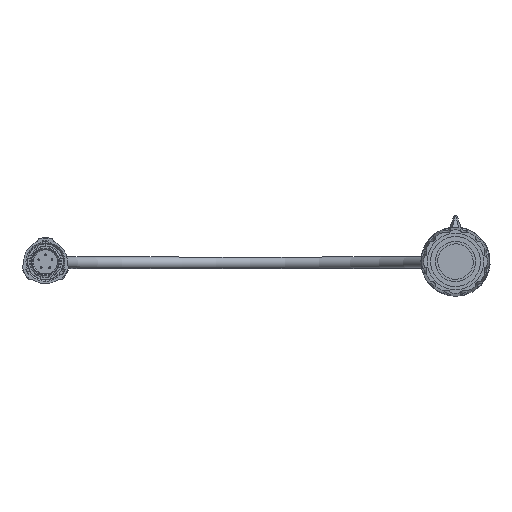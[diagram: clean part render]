
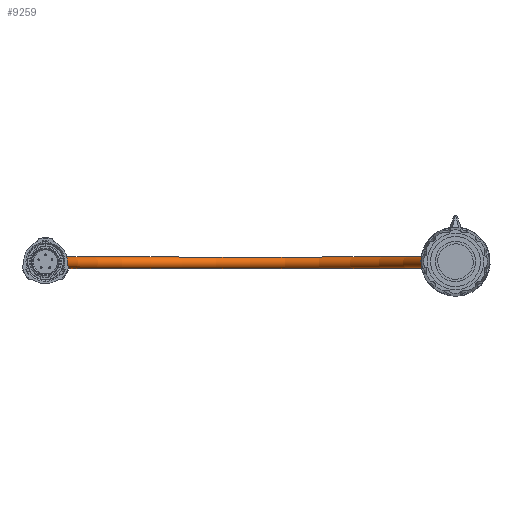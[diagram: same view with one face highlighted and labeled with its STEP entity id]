
A CAD part, top view. The second image highlights one B-rep face of the part: STEP entity #9259.
In plain terms, the highlighted toroidal (fillet/blend) face has major radius 63.68 mm and minor radius 1.825 mm.
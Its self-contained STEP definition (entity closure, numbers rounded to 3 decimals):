
#9197=AXIS2_PLACEMENT_3D('Circle Axis2P3D',#9195,#9196,$) ;
#9220=AXIS2_PLACEMENT_3D('Torus Axis2P3D',#9217,#9218,#9219) ;
#9224=AXIS2_PLACEMENT_3D('Circle Axis2P3D',#9222,#9223,$) ;
#9231=AXIS2_PLACEMENT_3D('Circle Axis2P3D',#9229,#9230,$) ;
#9250=AXIS2_PLACEMENT_3D('Circle Axis2P3D',#9248,#9249,$) ;
#9161=CARTESIAN_POINT('Vertex',(0.,100.,1.825)) ;
#9175=CARTESIAN_POINT('Vertex',(0.,100.,-1.825)) ;
#9195=CARTESIAN_POINT('Axis2P3D Location',(0.,100.,0.)) ;
#9217=CARTESIAN_POINT('Axis2P3D Location',(-63.68,100.,0.)) ;
#9222=CARTESIAN_POINT('Axis2P3D Location',(-63.68,100.,1.825)) ;
#9226=CARTESIAN_POINT('Vertex',(-127.36,100.,1.825)) ;
#9229=CARTESIAN_POINT('Axis2P3D Location',(-63.68,100.,-1.825)) ;
#9233=CARTESIAN_POINT('Vertex',(-127.36,100.,-1.825)) ;
#9248=CARTESIAN_POINT('Axis2P3D Location',(-127.36,100.,0.)) ;
#9196=DIRECTION('Axis2P3D Direction',(0.,1.,0.)) ;
#9218=DIRECTION('Axis2P3D Direction',(0.,0.,1.)) ;
#9219=DIRECTION('Axis2P3D XDirection',(1.,0.,0.)) ;
#9223=DIRECTION('Axis2P3D Direction',(0.,0.,1.)) ;
#9230=DIRECTION('Axis2P3D Direction',(0.,0.,1.)) ;
#9249=DIRECTION('Axis2P3D Direction',(0.,1.,-0.)) ;
#9254=ORIENTED_EDGE('',*,*,#9235,.F.) ;
#9255=ORIENTED_EDGE('',*,*,#9199,.T.) ;
#9256=ORIENTED_EDGE('',*,*,#9228,.T.) ;
#9257=ORIENTED_EDGE('',*,*,#9252,.F.) ;
#9259=ADVANCED_FACE('PartBody',(#9258),#9221,.T.) ;
#9198=CIRCLE('generated circle',#9197,1.825) ;
#9225=CIRCLE('generated circle',#9224,63.68) ;
#9232=CIRCLE('generated circle',#9231,63.68) ;
#9251=CIRCLE('generated circle',#9250,1.825) ;
#9221=TOROIDAL_SURFACE('homeo Torus',#9220,63.68,1.825) ;
#9199=EDGE_CURVE('',#9176,#9162,#9198,.T.) ;
#9228=EDGE_CURVE('',#9162,#9227,#9225,.T.) ;
#9235=EDGE_CURVE('',#9176,#9234,#9232,.T.) ;
#9252=EDGE_CURVE('',#9234,#9227,#9251,.F.) ;
#9253=EDGE_LOOP('',(#9254,#9255,#9256,#9257)) ;
#9258=FACE_OUTER_BOUND('',#9253,.T.) ;
#9162=VERTEX_POINT('',#9161) ;
#9176=VERTEX_POINT('',#9175) ;
#9227=VERTEX_POINT('',#9226) ;
#9234=VERTEX_POINT('',#9233) ;
